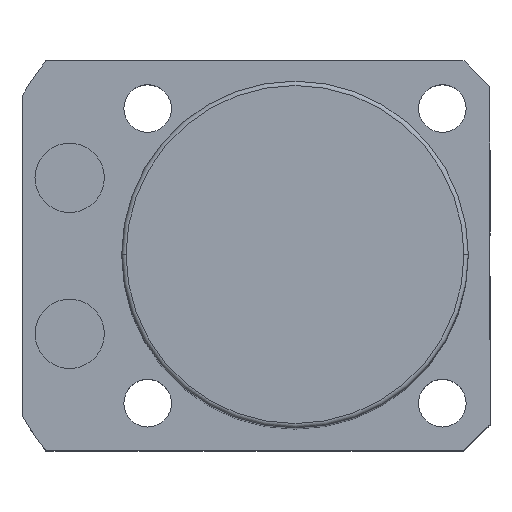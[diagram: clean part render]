
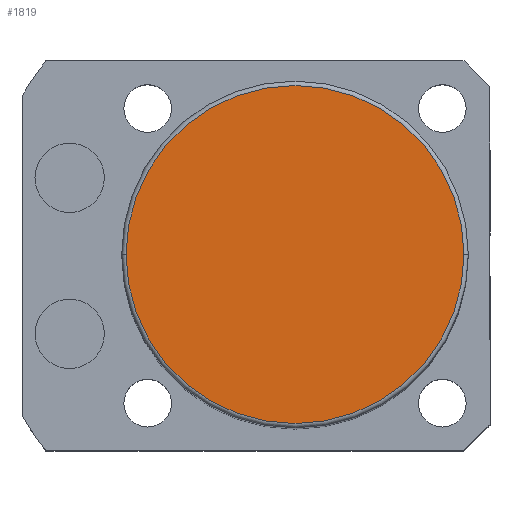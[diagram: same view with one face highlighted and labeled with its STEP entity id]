
A CAD part, top view. The second image highlights one B-rep face of the part: STEP entity #1819.
In plain terms, the highlighted planar face has unit normal (0, 0, 1).
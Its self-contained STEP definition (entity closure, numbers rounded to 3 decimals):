
#226 = FACE_OUTER_BOUND ( 'NONE', #1024, .T. ) ;
#239 = AXIS2_PLACEMENT_3D ( 'NONE', #1610, #2441, #1787 ) ;
#635 = CARTESIAN_POINT ( 'NONE',  ( 19.5, 0., 98.5 ) ) ;
#677 = CARTESIAN_POINT ( 'NONE',  ( -19.5, 0., 98.5 ) ) ;
#925 = DIRECTION ( 'NONE',  ( 1., 0., 0. ) ) ;
#974 = PLANE ( 'NONE',  #239 ) ;
#1024 = EDGE_LOOP ( 'NONE', ( #1704, #1879 ) ) ;
#1177 = CIRCLE ( 'NONE', #2646, 19.5 ) ;
#1295 = DIRECTION ( 'NONE',  ( 1., 0., 0. ) ) ;
#1377 = EDGE_CURVE ( 'NONE', #1577, #2567, #1177, .T. ) ;
#1577 = VERTEX_POINT ( 'NONE', #677 ) ;
#1610 = CARTESIAN_POINT ( 'NONE',  ( 0., 0., 98.5 ) ) ;
#1704 = ORIENTED_EDGE ( 'NONE', *, *, #1727, .T. ) ;
#1727 = EDGE_CURVE ( 'NONE', #2567, #1577, #1900, .T. ) ;
#1760 = DIRECTION ( 'NONE',  ( 0., 0., 1. ) ) ;
#1787 = DIRECTION ( 'NONE',  ( 1., 0., 0. ) ) ;
#1819 = ADVANCED_FACE ( 'NONE', ( #226 ), #974, .T. ) ;
#1879 = ORIENTED_EDGE ( 'NONE', *, *, #1377, .T. ) ;
#1900 = CIRCLE ( 'NONE', #2578, 19.5 ) ;
#1910 = DIRECTION ( 'NONE',  ( 0., 0., 1. ) ) ;
#1952 = CARTESIAN_POINT ( 'NONE',  ( 0., 0., 98.5 ) ) ;
#2341 = CARTESIAN_POINT ( 'NONE',  ( 0., 0., 98.5 ) ) ;
#2441 = DIRECTION ( 'NONE',  ( 0., 0., 1. ) ) ;
#2567 = VERTEX_POINT ( 'NONE', #635 ) ;
#2578 = AXIS2_PLACEMENT_3D ( 'NONE', #1952, #1760, #925 ) ;
#2646 = AXIS2_PLACEMENT_3D ( 'NONE', #2341, #1910, #1295 ) ;
